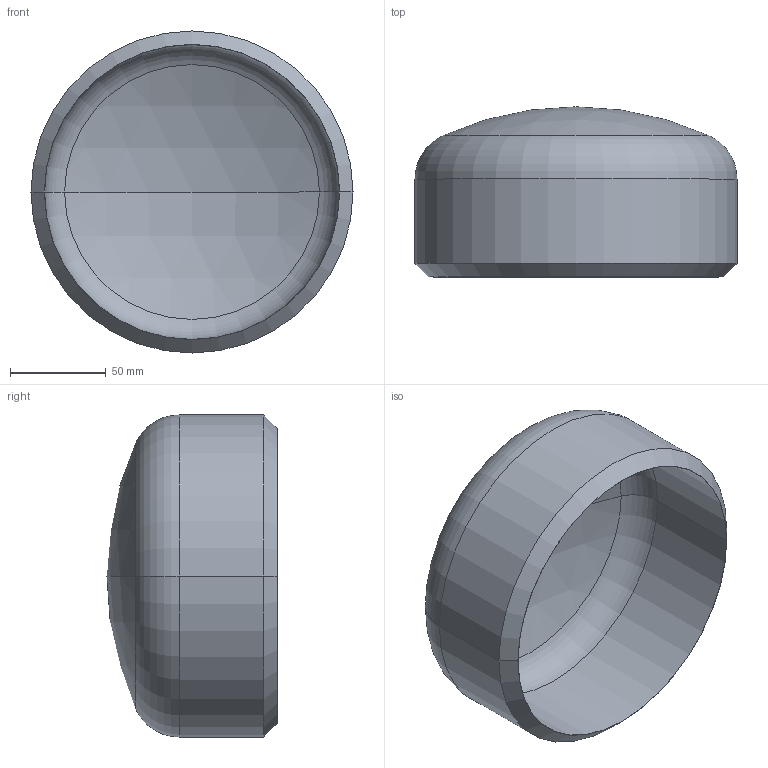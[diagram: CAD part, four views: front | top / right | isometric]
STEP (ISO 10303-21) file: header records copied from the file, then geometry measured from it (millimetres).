
FILE_DESCRIPTION (( 'STEP AP203' ), '1' );
FILE_NAME ('3D_R275_6x40S_173455240.STEP', '2024-08-23T12:21:32', ( '' ), ( '' ), 'SwSTEP 2.0', 'SolidWorks 2024', '' );
FILE_SCHEMA (( 'CONFIG_CONTROL_DESIGN' ));
Length unit declared in the file: millimetre
Products named in the file (1): 3D_R275_6x40S_173455240
Bounding box: 168.3 x 88.9 x 168.3 mm (x, y, z)
Volume: 363260.5 mm3; surface area: 107207 mm2
Topology: 1 solids, 1 shells, 15 faces, 28 edges, 16 vertices
Faces by surface type: sphere 4, torus 4, cylinder 4, cone 2, plane 1
Entity records: 457 total; most frequent: DIRECTION 82, CARTESIAN_POINT 60, ORIENTED_EDGE 56, AXIS2_PLACEMENT_3D 38, EDGE_CURVE 28, CIRCLE 22, VERTEX_POINT 16, EDGE_LOOP 16
